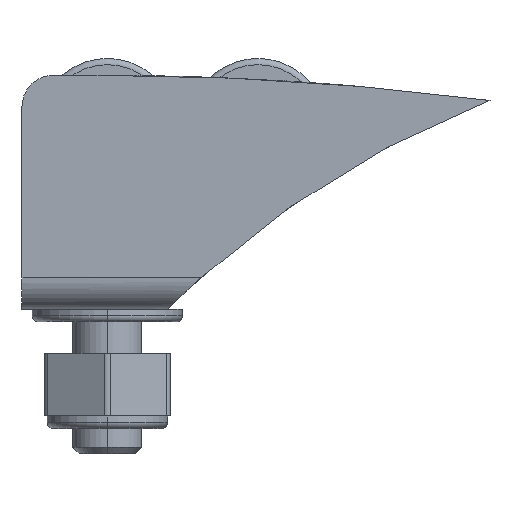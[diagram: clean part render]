
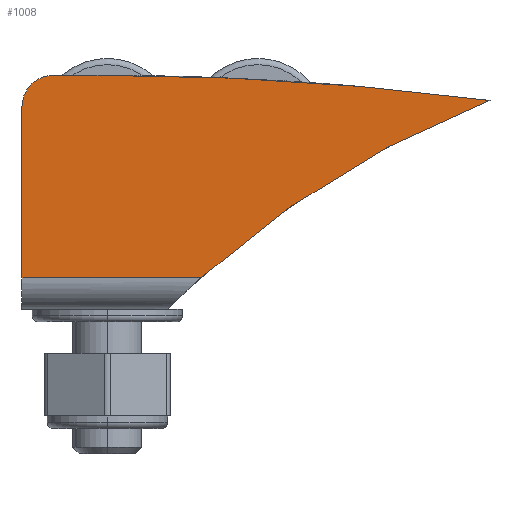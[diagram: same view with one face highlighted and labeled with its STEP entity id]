
A CAD part, left-side view. The second image highlights one B-rep face of the part: STEP entity #1008.
In plain terms, the highlighted planar face has unit normal (-1, 0, 0).
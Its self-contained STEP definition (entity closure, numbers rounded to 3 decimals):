
#922=CARTESIAN_POINT('Vertex',(-42.5,18.65,-6.15)) ;
#947=CARTESIAN_POINT('Vertex',(-42.5,4.399,-6.15)) ;
#950=CARTESIAN_POINT('Line Origine',(-42.5,0.,-6.15)) ;
#962=CARTESIAN_POINT('Axis2P3D Location',(-42.5,0.,0.)) ;
#967=CARTESIAN_POINT('Axis2P3D Location',(-42.5,16.15,7.5)) ;
#971=CARTESIAN_POINT('Vertex',(-42.5,18.65,7.5)) ;
#973=CARTESIAN_POINT('Vertex',(-42.5,16.15,10.)) ;
#976=CARTESIAN_POINT('Line Origine',(-42.5,18.65,0.675)) ;
#981=CARTESIAN_POINT('Axis2P3D Location',(-42.5,-45.721,-61.944)) ;
#985=CARTESIAN_POINT('Vertex',(-42.5,-18.65,8.)) ;
#988=CARTESIAN_POINT('Axis2P3D Location',(-42.5,12.35,-231.25)) ;
#992=CARTESIAN_POINT('Vertex',(-42.5,12.35,10.)) ;
#995=CARTESIAN_POINT('Line Origine',(-42.5,14.25,10.)) ;
#951=DIRECTION('Vector Direction',(0.,-1.,0.)) ;
#963=DIRECTION('Axis2P3D Direction',(1.,0.,0.)) ;
#964=DIRECTION('Axis2P3D XDirection',(0.,1.,0.)) ;
#968=DIRECTION('Axis2P3D Direction',(1.,0.,0.)) ;
#977=DIRECTION('Vector Direction',(0.,0.,-1.)) ;
#982=DIRECTION('Axis2P3D Direction',(1.,0.,0.)) ;
#989=DIRECTION('Axis2P3D Direction',(1.,0.,0.)) ;
#996=DIRECTION('Vector Direction',(0.,1.,0.)) ;
#965=AXIS2_PLACEMENT_3D('Plane Axis2P3D',#962,#963,#964) ;
#969=AXIS2_PLACEMENT_3D('Circle Axis2P3D',#967,#968,$) ;
#983=AXIS2_PLACEMENT_3D('Circle Axis2P3D',#981,#982,$) ;
#990=AXIS2_PLACEMENT_3D('Circle Axis2P3D',#988,#989,$) ;
#1001=ORIENTED_EDGE('',*,*,#975,.F.) ;
#1002=ORIENTED_EDGE('',*,*,#980,.F.) ;
#1003=ORIENTED_EDGE('',*,*,#954,.F.) ;
#1004=ORIENTED_EDGE('',*,*,#987,.T.) ;
#1005=ORIENTED_EDGE('',*,*,#994,.F.) ;
#1006=ORIENTED_EDGE('',*,*,#999,.F.) ;
#952=VECTOR('Line Direction',#951,1.) ;
#978=VECTOR('Line Direction',#977,1.) ;
#997=VECTOR('Line Direction',#996,1.) ;
#1008=ADVANCED_FACE('PartBody',(#1007),#966,.F.) ;
#970=CIRCLE('generated circle',#969,2.5) ;
#984=CIRCLE('generated circle',#983,75.) ;
#991=CIRCLE('generated circle',#990,241.25) ;
#954=EDGE_CURVE('',#948,#923,#953,.F.) ;
#975=EDGE_CURVE('',#972,#974,#970,.T.) ;
#980=EDGE_CURVE('',#923,#972,#979,.F.) ;
#987=EDGE_CURVE('',#948,#986,#984,.T.) ;
#994=EDGE_CURVE('',#993,#986,#991,.T.) ;
#999=EDGE_CURVE('',#974,#993,#998,.F.) ;
#1000=EDGE_LOOP('',(#1001,#1002,#1003,#1004,#1005,#1006)) ;
#1007=FACE_OUTER_BOUND('',#1000,.T.) ;
#953=LINE('Line',#950,#952) ;
#979=LINE('Line',#976,#978) ;
#998=LINE('Line',#995,#997) ;
#966=PLANE('',#965) ;
#923=VERTEX_POINT('',#922) ;
#948=VERTEX_POINT('',#947) ;
#972=VERTEX_POINT('',#971) ;
#974=VERTEX_POINT('',#973) ;
#986=VERTEX_POINT('',#985) ;
#993=VERTEX_POINT('',#992) ;
